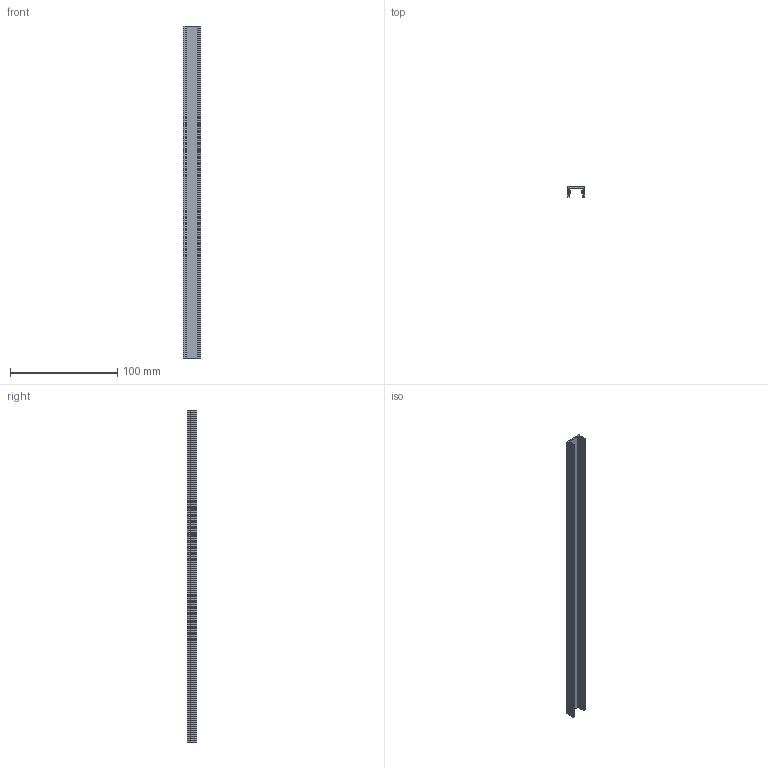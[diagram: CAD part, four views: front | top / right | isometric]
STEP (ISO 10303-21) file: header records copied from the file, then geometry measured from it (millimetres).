
FILE_DESCRIPTION(('STEP AP214'),'1');
FILE_NAME('ILK-FLEXEXT-0310-001_extrusion_Step.stp','2016-10-21T14:43:17',(' '),(' '),'Spatial InterOp 3D',' ',' ');
FILE_SCHEMA(('automotive_design'));
Length unit declared in the file: metre
Products named in the file (2): Solid; 1
Bounding box: 16.66 x 8.9 x 310 mm (x, y, z)
Volume: 14191 mm3; surface area: 25442 mm2
Topology: 1 solids, 1 shells, 73 faces, 282 edges, 280 vertices
Faces by surface type: plane 46, cylinder 27
Entity records: 4246 total; most frequent: DIRECTION 511, CARTESIAN_POINT 499, ORIENTED_EDGE 426, EDGE_CURVE 213, STYLED_ITEM 212, PRESENTATION_STYLE_ASSIGNMENT 212, COLOUR_RGB 212, LINE 203
